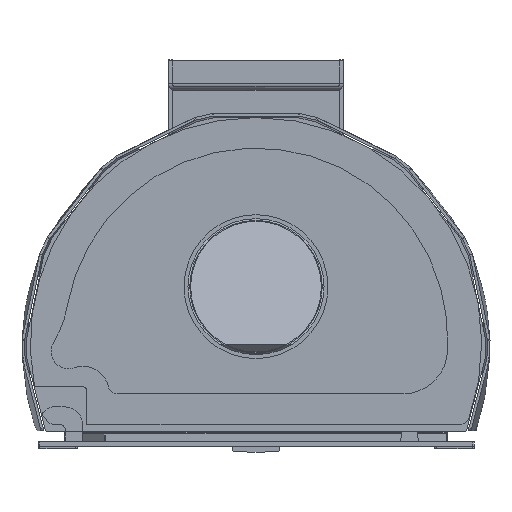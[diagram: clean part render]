
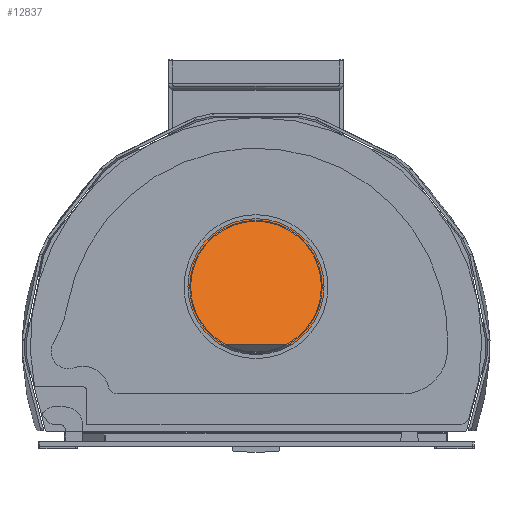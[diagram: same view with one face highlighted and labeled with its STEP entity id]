
A CAD part, front view. The second image highlights one B-rep face of the part: STEP entity #12837.
In plain terms, the highlighted planar face has unit normal (0, -0.866, 0.5) as drawn and (0, 0.5, 0.866) by its records, which use the part's own axes.
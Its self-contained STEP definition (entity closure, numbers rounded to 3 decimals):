
#1329 = CARTESIAN_POINT ( 'NONE',  ( -131.16, -142.263, 854.306 ) ) ;
#1511 = CARTESIAN_POINT ( 'NONE',  ( -186.703, -326.727, 960.807 ) ) ;
#2075 = EDGE_CURVE ( 'NONE', #13123, #3244, #23412, .T. ) ;
#3244 = VERTEX_POINT ( 'NONE', #72480 ) ;
#5446 = EDGE_CURVE ( 'NONE', #17763, #42245, #53261, .T. ) ;
#9301 = VECTOR ( 'NONE', #46263, 1000. ) ;
#10126 = CARTESIAN_POINT ( 'NONE',  ( -131.16, -142.263, 854.306 ) ) ;
#12225 = VECTOR ( 'NONE', #61381, 1000. ) ;
#12597 = CARTESIAN_POINT ( 'NONE',  ( -189.01, -325.739, 960.237 ) ) ;
#12837 = ADVANCED_FACE ( 'NONE', ( #52298 ), #40890, .T. ) ;
#13058 = CARTESIAN_POINT ( 'NONE',  ( -139.665, -140.987, 853.57 ) ) ;
#13123 = VERTEX_POINT ( 'NONE', #21661 ) ;
#16013 = CARTESIAN_POINT ( 'NONE',  ( -188.631, -324.539, 959.544 ) ) ;
#16053 = LINE ( 'NONE', #55474, #12225 ) ;
#17763 = VERTEX_POINT ( 'NONE', #20464 ) ;
#17772 = CARTESIAN_POINT ( 'NONE',  ( -188.631, -324.539, 959.544 ) ) ;
#17956 = EDGE_CURVE ( 'NONE', #65948, #42245, #16053, .T. ) ;
#18627 = ORIENTED_EDGE ( 'NONE', *, *, #54471, .F. ) ;
#18802 = EDGE_LOOP ( 'NONE', ( #43454, #54291, #36381, #61582, #18627, #36797, #19110, #24005 ) ) ;
#19110 = ORIENTED_EDGE ( 'NONE', *, *, #17956, .F. ) ;
#19362 = CARTESIAN_POINT ( 'NONE',  ( 188.631, -324.539, 959.544 ) ) ;
#19529 = CARTESIAN_POINT ( 'NONE',  ( 1143.871, -326.727, 960.807 ) ) ;
#20464 = CARTESIAN_POINT ( 'NONE',  ( 186.703, -326.727, 960.807 ) ) ;
#21661 = CARTESIAN_POINT ( 'NONE',  ( 129.231, -140.987, 853.57 ) ) ;
#23412 = LINE ( 'NONE', #13058, #9301 ) ;
#24005 = ORIENTED_EDGE ( 'NONE', *, *, #56960, .T. ) ;
#24452 = EDGE_CURVE ( 'NONE', #66295, #54492, #39958, .T. ) ;
#25256 = VERTEX_POINT ( 'NONE', #1329 ) ;
#25700 = DIRECTION ( 'NONE',  ( -0.263, -0.835, 0.482 ) ) ;
#28763 = CARTESIAN_POINT ( 'NONE',  ( 186.703, -326.727, 960.807 ) ) ;
#29792 = DIRECTION ( 'NONE',  ( 0., 0.5, 0.866 ) ) ;
#30552 = DIRECTION ( 'NONE',  ( -1., 0., 0. ) ) ;
#30662 = CARTESIAN_POINT ( 'NONE',  ( 130.168, -140.987, 853.57 ) ) ;
#33689 = CARTESIAN_POINT ( 'NONE',  ( -130.913, -141.48, 853.854 ) ) ;
#34563 = CARTESIAN_POINT ( 'NONE',  ( 131.16, -142.263, 854.306 ) ) ;
#36003 = VECTOR ( 'NONE', #30552, 1000. ) ;
#36381 = ORIENTED_EDGE ( 'NONE', *, *, #67878, .T. ) ;
#36797 = ORIENTED_EDGE ( 'NONE', *, *, #5446, .T. ) ;
#39958 =( BOUNDED_CURVE ( )  B_SPLINE_CURVE ( 3, ( #17772, #12597, #51322, #1511 ),
 .UNSPECIFIED., .F., .F. ) 
 B_SPLINE_CURVE_WITH_KNOTS ( ( 4, 4 ),
 ( 2.09, 3.927 ),
 .UNSPECIFIED. ) 
 CURVE ( )  GEOMETRIC_REPRESENTATION_ITEM ( )  RATIONAL_B_SPLINE_CURVE ( ( 1., 0.738, 0.738, 1. ) ) 
 REPRESENTATION_ITEM ( '' )  );
#40890 = PLANE ( 'NONE',  #48729 ) ;
#42245 = VERTEX_POINT ( 'NONE', #19362 ) ;
#42843 = CARTESIAN_POINT ( 'NONE',  ( 129.231, -140.987, 853.57 ) ) ;
#43454 = ORIENTED_EDGE ( 'NONE', *, *, #2075, .T. ) ;
#45105 = CARTESIAN_POINT ( 'NONE',  ( -130.168, -140.987, 853.57 ) ) ;
#46092 = CARTESIAN_POINT ( 'NONE',  ( 189.01, -325.739, 960.237 ) ) ;
#46263 = DIRECTION ( 'NONE',  ( -1., 0., 0. ) ) ;
#47171 = LINE ( 'NONE', #19529, #36003 ) ;
#48729 = AXIS2_PLACEMENT_3D ( 'NONE', #69985, #29792, #64464 ) ;
#49551 = CARTESIAN_POINT ( 'NONE',  ( -129.231, -140.987, 853.57 ) ) ;
#51322 = CARTESIAN_POINT ( 'NONE',  ( -188.139, -326.727, 960.807 ) ) ;
#52298 = FACE_OUTER_BOUND ( 'NONE', #18802, .T. ) ;
#52345 = CARTESIAN_POINT ( 'NONE',  ( 188.139, -326.727, 960.807 ) ) ;
#53261 =( BOUNDED_CURVE ( )  B_SPLINE_CURVE ( 3, ( #28763, #52345, #46092, #58247 ),
 .UNSPECIFIED., .F., .F. ) 
 B_SPLINE_CURVE_WITH_KNOTS ( ( 4, 4 ),
 ( 2.356, 4.193 ),
 .UNSPECIFIED. ) 
 CURVE ( )  GEOMETRIC_REPRESENTATION_ITEM ( )  RATIONAL_B_SPLINE_CURVE ( ( 1., 0.738, 0.738, 1. ) ) 
 REPRESENTATION_ITEM ( '' )  );
#54291 = ORIENTED_EDGE ( 'NONE', *, *, #55275, .T. ) ;
#54441 = LINE ( 'NONE', #70677, #58035 ) ;
#54471 = EDGE_CURVE ( 'NONE', #17763, #54492, #47171, .T. ) ;
#54492 = VERTEX_POINT ( 'NONE', #63775 ) ;
#54952 =( BOUNDED_CURVE ( )  B_SPLINE_CURVE ( 3, ( #59820, #64258, #30662, #42843 ),
 .UNSPECIFIED., .F., .F. ) 
 B_SPLINE_CURVE_WITH_KNOTS ( ( 4, 4 ),
 ( 2.264, 3.568 ),
 .UNSPECIFIED. ) 
 CURVE ( )  GEOMETRIC_REPRESENTATION_ITEM ( )  RATIONAL_B_SPLINE_CURVE ( ( 1., 0.863, 0.863, 1. ) ) 
 REPRESENTATION_ITEM ( '' )  );
#55275 = EDGE_CURVE ( 'NONE', #3244, #25256, #67638, .T. ) ;
#55474 = CARTESIAN_POINT ( 'NONE',  ( 109.504, -73.578, 814.651 ) ) ;
#56960 = EDGE_CURVE ( 'NONE', #65948, #13123, #54952, .T. ) ;
#58035 = VECTOR ( 'NONE', #25700, 1000. ) ;
#58247 = CARTESIAN_POINT ( 'NONE',  ( 188.631, -324.539, 959.544 ) ) ;
#59820 = CARTESIAN_POINT ( 'NONE',  ( 131.16, -142.263, 854.306 ) ) ;
#61381 = DIRECTION ( 'NONE',  ( 0.263, -0.835, 0.482 ) ) ;
#61582 = ORIENTED_EDGE ( 'NONE', *, *, #24452, .T. ) ;
#63775 = CARTESIAN_POINT ( 'NONE',  ( -186.703, -326.727, 960.807 ) ) ;
#64258 = CARTESIAN_POINT ( 'NONE',  ( 130.913, -141.48, 853.854 ) ) ;
#64464 = DIRECTION ( 'NONE',  ( 1., 0., 0. ) ) ;
#65948 = VERTEX_POINT ( 'NONE', #34563 ) ;
#66295 = VERTEX_POINT ( 'NONE', #16013 ) ;
#67638 =( BOUNDED_CURVE ( )  B_SPLINE_CURVE ( 3, ( #49551, #45105, #33689, #10126 ),
 .UNSPECIFIED., .F., .F. ) 
 B_SPLINE_CURVE_WITH_KNOTS ( ( 4, 4 ),
 ( 2.715, 4.019 ),
 .UNSPECIFIED. ) 
 CURVE ( )  GEOMETRIC_REPRESENTATION_ITEM ( )  RATIONAL_B_SPLINE_CURVE ( ( 1., 0.863, 0.863, 1. ) ) 
 REPRESENTATION_ITEM ( '' )  );
#67878 = EDGE_CURVE ( 'NONE', #25256, #66295, #54441, .T. ) ;
#69985 = CARTESIAN_POINT ( 'NONE',  ( -139.665, -132.5, 848.67 ) ) ;
#70677 = CARTESIAN_POINT ( 'NONE',  ( -122.904, -116.077, 839.188 ) ) ;
#72480 = CARTESIAN_POINT ( 'NONE',  ( -129.231, -140.987, 853.57 ) ) ;
